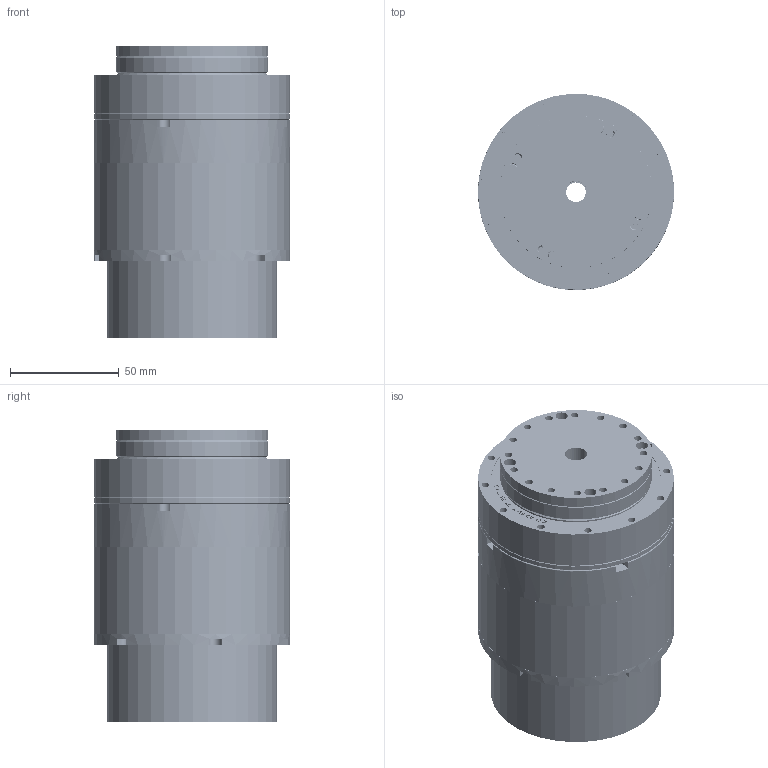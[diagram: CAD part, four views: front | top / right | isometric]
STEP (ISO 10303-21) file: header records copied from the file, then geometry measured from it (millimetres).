
FILE_DESCRIPTION (( 'STEP AP203' ), '1' );
FILE_NAME ('HCA-60.STEP', '2023-11-30T03:19:06', ( '' ), ( '' ), 'SwSTEP 2.0', 'SolidWorks 2020', '' );
FILE_SCHEMA (( 'CONFIG_CONTROL_DESIGN' ));
Length unit declared in the file: millimetre
Products named in the file (8): 3418鎢攫.step; 中空驱动板; 模组编码器B板V2.2 - 大然; 菁裔 - 20 - 等粣; 磁环套筒 - 谐波输出轴-双轴-20; HCA-60; YF20.STEP; 磁环套筒 - 电机输入轴 - 20
Assembly tree (9 placements, depth 2):
  HCA-60
    YF20.STEP
    磁环套筒 - 电机输入轴 - 20
    3418鎢攫.step  x2
    磁环套筒 - 谐波输出轴-双轴-20
    模组编码器B板V2.2 - 大然  x2
    中空驱动板
    菁裔 - 20 - 等粣
Bounding box: 90 x 90 x 134.4 mm (x, y, z)
Volume: 467544.4 mm3; surface area: 329831 mm2
Topology: 292 solids, 293 shells, 11475 faces, 29366 edges, 18783 vertices
Faces by surface type: plane 6091, cylinder 3089, bspline 1584, cone 404, sphere 244, torus 63
Entity records: 415162 total; most frequent: CARTESIAN_POINT 182818, ORIENTED_EDGE 50574, DIRECTION 42571, EDGE_CURVE 25287, VECTOR 16699, LINE 16699, VERTEX_POINT 16363, AXIS2_PLACEMENT_3D 12936
